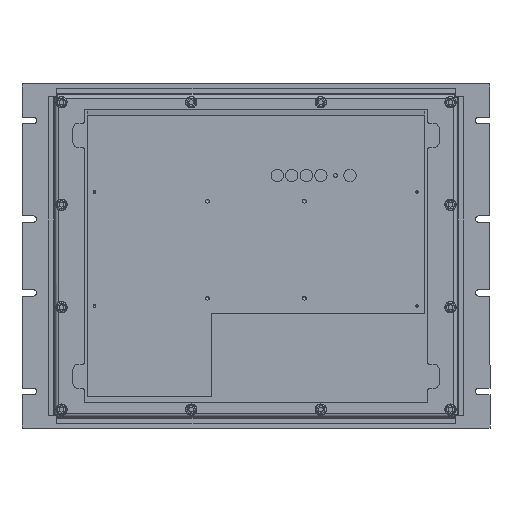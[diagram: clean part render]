
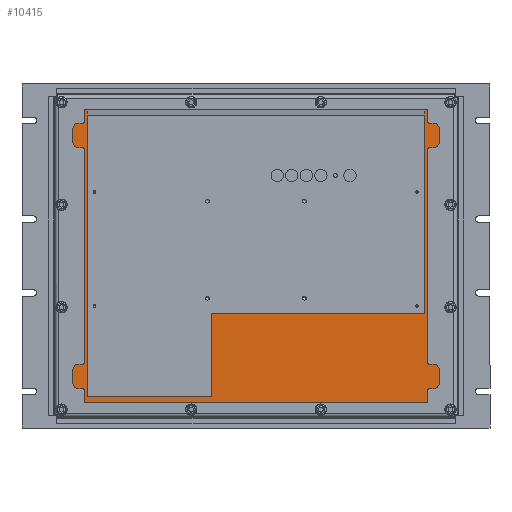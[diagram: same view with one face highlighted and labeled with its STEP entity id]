
A CAD part, top view. The second image highlights one B-rep face of the part: STEP entity #10415.
In plain terms, the highlighted planar face has unit normal (0, 0, 1).
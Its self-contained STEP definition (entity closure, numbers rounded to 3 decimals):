
#61 = ORIENTED_EDGE ( 'NONE', *, *, #408, .T. ) ;
#153 = ORIENTED_EDGE ( 'NONE', *, *, #9174, .T. ) ;
#296 = CARTESIAN_POINT ( 'NONE',  ( 198.096, 149.584, 17.45 ) ) ;
#408 = EDGE_CURVE ( 'NONE', #1853, #7472, #3885, .T. ) ;
#540 = ORIENTED_EDGE ( 'NONE', *, *, #11738, .T. ) ;
#922 = CARTESIAN_POINT ( 'NONE',  ( -198.097, 149.584, 17.45 ) ) ;
#1003 = ORIENTED_EDGE ( 'NONE', *, *, #1439, .T. ) ;
#1439 = EDGE_CURVE ( 'NONE', #10763, #1853, #6940, .T. ) ;
#1538 = VECTOR ( 'NONE', #12220, 1000. ) ;
#1539 = LINE ( 'NONE', #3626, #4718 ) ;
#1585 = CARTESIAN_POINT ( 'NONE',  ( -191.685, -155.996, 17.45 ) ) ;
#1599 = CARTESIAN_POINT ( 'NONE',  ( -198.097, 149.584, 17.45 ) ) ;
#1624 = CARTESIAN_POINT ( 'NONE',  ( 198.096, 149.584, 17.45 ) ) ;
#1853 = VERTEX_POINT ( 'NONE', #9552 ) ;
#2038 = DIRECTION ( 'NONE',  ( 0., 0., -1. ) ) ;
#2092 = CARTESIAN_POINT ( 'NONE',  ( 198.096, -149.584, 17.45 ) ) ;
#2300 = VECTOR ( 'NONE', #4711, 1000. ) ;
#2478 = CARTESIAN_POINT ( 'NONE',  ( 191.685, 155.996, 17.45 ) ) ;
#3505 = VERTEX_POINT ( 'NONE', #296 ) ;
#3626 = CARTESIAN_POINT ( 'NONE',  ( -191.685, 155.996, 17.45 ) ) ;
#3640 = LINE ( 'NONE', #1624, #4964 ) ;
#3885 = LINE ( 'NONE', #7155, #6629 ) ;
#4278 = ORIENTED_EDGE ( 'NONE', *, *, #6632, .T. ) ;
#4711 = DIRECTION ( 'NONE',  ( -0.707, 0.707, 0. ) ) ;
#4718 = VECTOR ( 'NONE', #13357, 1000. ) ;
#4903 = LINE ( 'NONE', #922, #11796 ) ;
#4964 = VECTOR ( 'NONE', #7903, 1000. ) ;
#5634 = LINE ( 'NONE', #5894, #2300 ) ;
#5778 = EDGE_CURVE ( 'NONE', #7472, #8928, #9545, .T. ) ;
#5887 = PLANE ( 'NONE',  #9386 ) ;
#5894 = CARTESIAN_POINT ( 'NONE',  ( 191.685, 155.996, 17.45 ) ) ;
#6488 = VERTEX_POINT ( 'NONE', #2478 ) ;
#6629 = VECTOR ( 'NONE', #11404, 1000. ) ;
#6632 = EDGE_CURVE ( 'NONE', #12998, #10347, #4903, .T. ) ;
#6940 = LINE ( 'NONE', #1585, #1538 ) ;
#7155 = CARTESIAN_POINT ( 'NONE',  ( 191.685, -155.996, 17.45 ) ) ;
#7188 = CARTESIAN_POINT ( 'NONE',  ( -191.685, 155.996, 17.45 ) ) ;
#7343 = EDGE_LOOP ( 'NONE', ( #153, #1003, #61, #10065, #540, #11398, #7380, #4278 ) ) ;
#7380 = ORIENTED_EDGE ( 'NONE', *, *, #7766, .T. ) ;
#7472 = VERTEX_POINT ( 'NONE', #8296 ) ;
#7666 = LINE ( 'NONE', #9534, #11328 ) ;
#7766 = EDGE_CURVE ( 'NONE', #6488, #12998, #1539, .T. ) ;
#7903 = DIRECTION ( 'NONE',  ( 0., 1., 0. ) ) ;
#8296 = CARTESIAN_POINT ( 'NONE',  ( 191.685, -155.996, 17.45 ) ) ;
#8928 = VERTEX_POINT ( 'NONE', #13455 ) ;
#9110 = FACE_OUTER_BOUND ( 'NONE', #7343, .T. ) ;
#9167 = DIRECTION ( 'NONE',  ( -0.707, -0.707, 0. ) ) ;
#9174 = EDGE_CURVE ( 'NONE', #10347, #10763, #7666, .T. ) ;
#9176 = DIRECTION ( 'NONE',  ( -1., 0., 0. ) ) ;
#9349 = EDGE_CURVE ( 'NONE', #3505, #6488, #5634, .T. ) ;
#9386 = AXIS2_PLACEMENT_3D ( 'NONE', #10152, #2038, #9176 ) ;
#9534 = CARTESIAN_POINT ( 'NONE',  ( -198.097, -149.584, 17.45 ) ) ;
#9545 = LINE ( 'NONE', #2092, #10253 ) ;
#9552 = CARTESIAN_POINT ( 'NONE',  ( -191.685, -155.996, 17.45 ) ) ;
#9827 = DIRECTION ( 'NONE',  ( 0., -1., 0. ) ) ;
#9858 = CARTESIAN_POINT ( 'NONE',  ( -198.097, -149.584, 17.45 ) ) ;
#10065 = ORIENTED_EDGE ( 'NONE', *, *, #5778, .T. ) ;
#10152 = CARTESIAN_POINT ( 'NONE',  ( 0., 0., 17.45 ) ) ;
#10253 = VECTOR ( 'NONE', #13645, 1000. ) ;
#10347 = VERTEX_POINT ( 'NONE', #1599 ) ;
#10415 = ADVANCED_FACE ( 'NONE', ( #9110 ), #5887, .F. ) ;
#10763 = VERTEX_POINT ( 'NONE', #9858 ) ;
#11328 = VECTOR ( 'NONE', #9827, 1000. ) ;
#11398 = ORIENTED_EDGE ( 'NONE', *, *, #9349, .T. ) ;
#11404 = DIRECTION ( 'NONE',  ( 1., 0., 0. ) ) ;
#11738 = EDGE_CURVE ( 'NONE', #8928, #3505, #3640, .T. ) ;
#11796 = VECTOR ( 'NONE', #9167, 1000. ) ;
#12220 = DIRECTION ( 'NONE',  ( 0.707, -0.707, 0. ) ) ;
#12998 = VERTEX_POINT ( 'NONE', #7188 ) ;
#13357 = DIRECTION ( 'NONE',  ( -1., 0., 0. ) ) ;
#13455 = CARTESIAN_POINT ( 'NONE',  ( 198.096, -149.584, 17.45 ) ) ;
#13645 = DIRECTION ( 'NONE',  ( 0.707, 0.707, 0. ) ) ;
